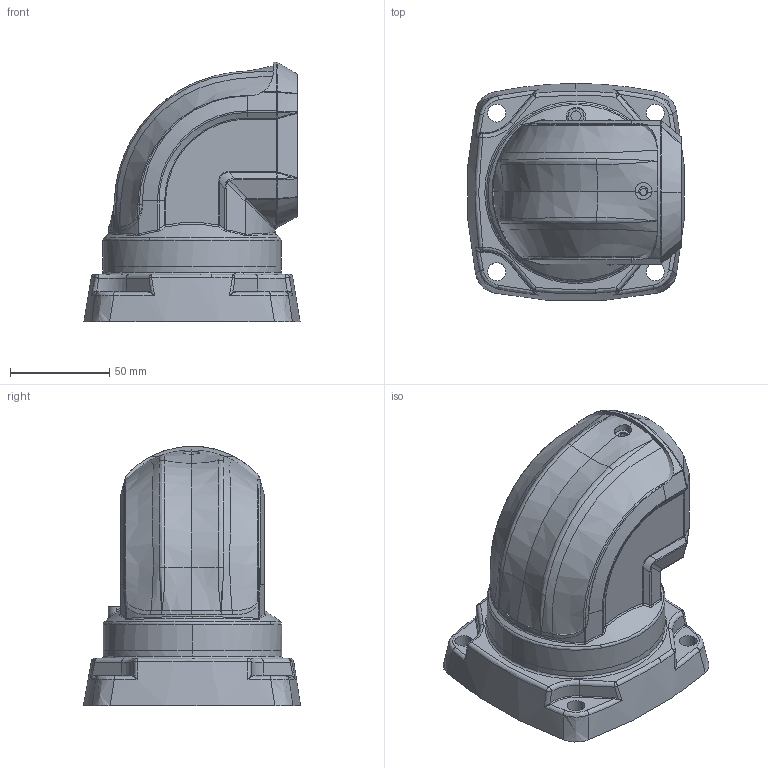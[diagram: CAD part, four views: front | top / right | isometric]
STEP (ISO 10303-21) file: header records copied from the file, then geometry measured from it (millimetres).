
FILE_DESCRIPTION (( 'STEP AP203' ), '1' );
FILE_NAME ('50-65-5020.STEP', '2019-10-03T05:24:24', ( 'User' ), ( 'Microsoft' ), 'SwSTEP 2.0', 'SolidWorks 2017', '' );
FILE_SCHEMA (( 'CONFIG_CONTROL_DESIGN' ));
Length unit declared in the file: millimetre
Products named in the file (4): 50-階釱; 50裔赽; 50-65-5020; 50-唅蛌菁釱
Assembly tree (3 placements, depth 2):
  50-65-5020
    50-唅蛌菁釱
    50-階釱
    50裔赽
Bounding box: 109.03 x 109.51 x 131 mm (x, y, z)
Volume: 314156.1 mm3; surface area: 112674.9 mm2
Topology: 3 solids, 3 shells, 663 faces, 1708 edges, 1042 vertices
Faces by surface type: bspline 278, cylinder 230, plane 138, cone 13, torus 4
Entity records: 49752 total; most frequent: CARTESIAN_POINT 35453, ORIENTED_EDGE 3370, DIRECTION 2183, EDGE_CURVE 1685, VERTEX_POINT 1041, AXIS2_PLACEMENT_3D 851, B_SPLINE_CURVE_WITH_KNOTS 704, EDGE_LOOP 702
